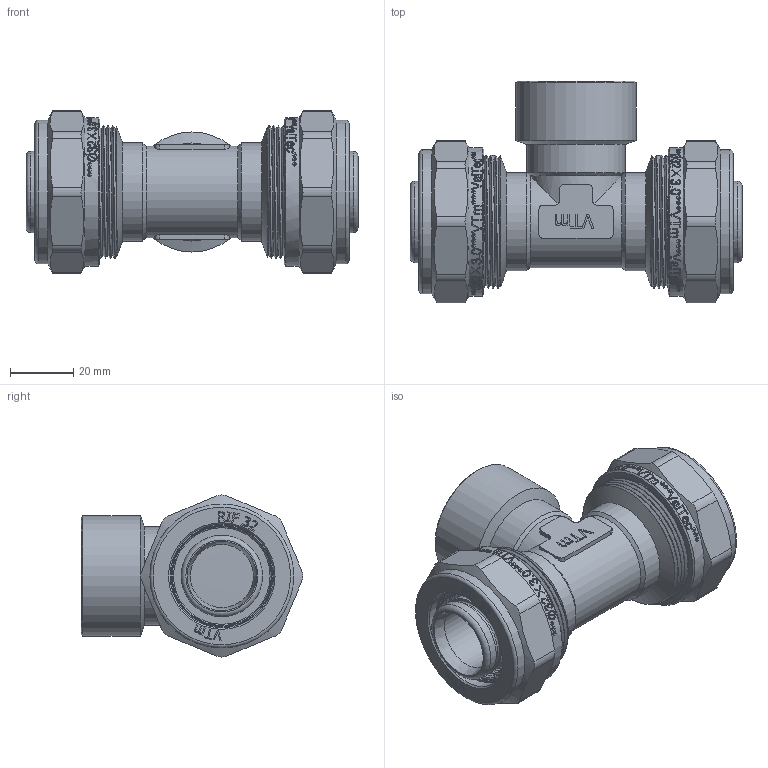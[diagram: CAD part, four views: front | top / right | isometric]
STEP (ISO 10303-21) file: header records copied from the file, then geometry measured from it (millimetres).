
FILE_DESCRIPTION(/* description */ (''),/* implementation_level */ '2;1');
FILE_NAME(/* name */ 'E:\Артём\00000\Работа удаленка\Обжимные фитинги\VTm.332.N.320632.stp',/* time_stamp */ '2020-07-08T14:01:59+03:00',/* author */ ('BeN_GaN'),/* organization */ (''),/* preprocessor_version */ 'ST-DEVELOPER v18',/* originating_system */ 'Autodesk Inventor 2020',/* authorisation */ '');
FILE_SCHEMA (('AUTOMOTIVE_DESIGN { 1 0 10303 214 3 1 1 }'));
Length unit declared in the file: millimetre
Products named in the file (1): VTm.332.N.320632
Bounding box: 105 x 70.15 x 51.3 mm (x, y, z)
Volume: 86590.1 mm3; surface area: 48894.4 mm2
Topology: 1 solids, 1 shells, 1457 faces, 4149 edges, 2795 vertices
Faces by surface type: bspline 764, plane 406, cylinder 204, torus 48, cone 35
Full cylindrical faces by diameter (mm): 20 x1, 23.4 x4, 24.5 x1, 25.75 x10, 29 x1, 30.3 x5, 30.538 x8, 31 x3, 31.683 x10, 32.2 x2, 32.7 x2, 34.9 x6, 35.5 x2, 38 x1, 40.38 x16, 40.5 x7, 42 x6, 45.5 x2, 47 x2
Entity records: 65797 total; most frequent: CARTESIAN_POINT 32881, ORIENTED_EDGE 8304, DIRECTION 4364, EDGE_CURVE 4152, VERTEX_POINT 2798, LINE 1786, VECTOR 1786, B_SPLINE_CURVE_WITH_KNOTS 1739
